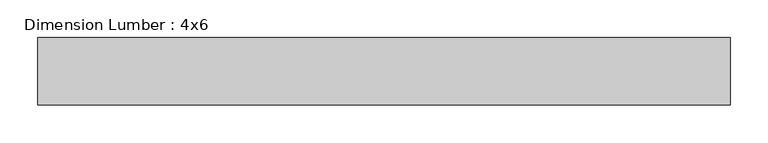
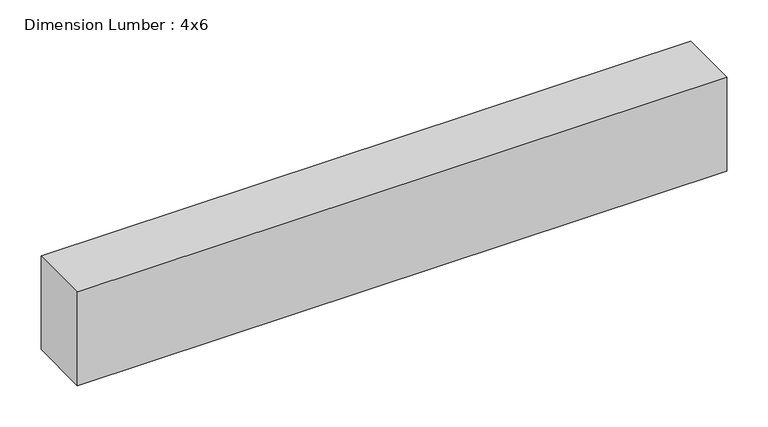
"""IFC4 building model written with IfcOpenShell, lengths in millimetres: beam geometry, Dimension Lumber : 4x6."""

from ifc_helpers import new_model, si_unit, frame, origin, place, context, project, spatial, polyline, outline, extrude, source, transform, mapped, element, save


def dimension_lumber_4x6_ef52ddf4(model_context):
    return source(origin(), model_context, "Body", "SweptSolid", [
        extrude(outline(polyline([(457.1999994, 44.45), (457.1999994, -44.45), (-457.1999994, -44.45), (-457.1999994, 44.45), (457.1999994, 44.45)])), frame((0.0, 0.0, -69.85), z_axis=(0.0, 0.0, 1.0), x_axis=(1.0, 0.0, 0.0)), (0.0, 0.0, 1.0), 139.7),
    ])


if __name__ == "__main__":
    model = new_model("IFC4")
    model_context = context("Model", 3, world=origin())
    ifc_project = project(units=[si_unit("LENGTHUNIT", "METRE", prefix="MILLI")], contexts=[model_context])
    site = spatial("IfcSite", under=ifc_project)
    building = spatial("IfcBuilding", under=site)
    placement = place(None, origin())
    dimension_lumber_4x6_shape = dimension_lumber_4x6_ef52ddf4(model_context)
    element("IfcBeam", 1, ObjectType="Dimension Lumber : 4x6", at=placement, inside=building, context=model_context, shape_type="MappedRepresentation", body=[
        mapped(dimension_lumber_4x6_shape, transform((0.0, 0.0, 0.0), x_axis=(1.0, 0.0, 0.0), y_axis=(0.0, 1.0, 0.0), z_axis=(0.0, 0.0, 1.0))),
    ])
    save(model, "model.ifc")
